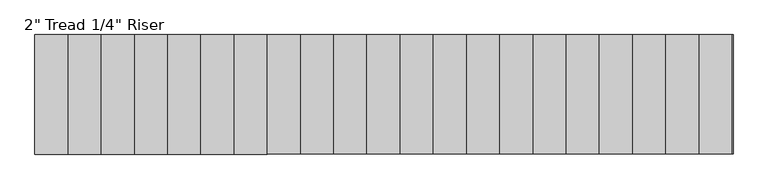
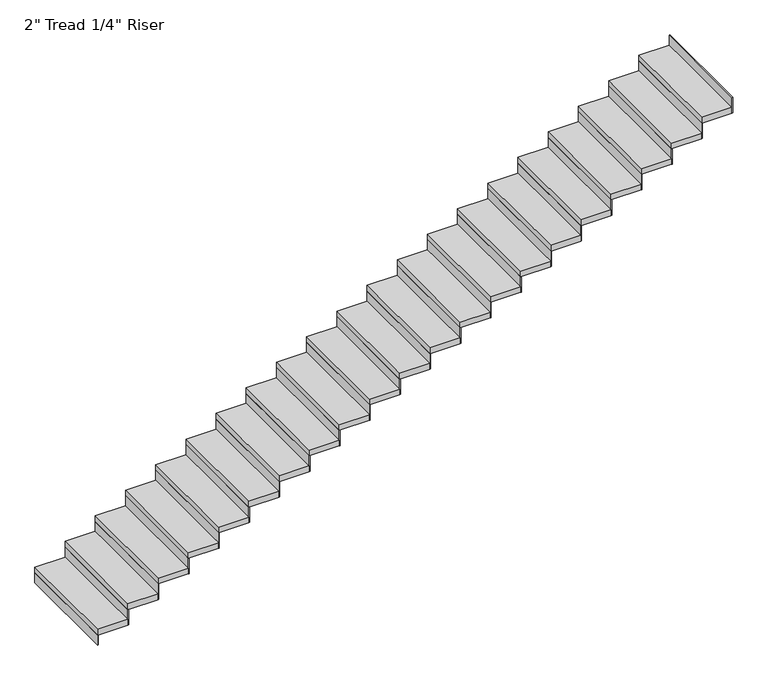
"""IFC4 building model written with IfcOpenShell, lengths in millimetres: stair flight geometry."""

from ifc_helpers import new_model, si_unit, frame, origin, origin_with_axes, place, context, project, spatial, polyline, outline, extrude, source, transform, mapped, element, save


def stair_flight_cca27561(model_context):
    return source(origin(), model_context, "Body", "SweptSolid", [
        extrude(outline(polyline([(37777.7791841, 50604.9186802), (37771.4291841, 50604.9186802), (37771.4291841, 51519.3186802), (37777.7791841, 51519.3186802), (37777.7791841, 50604.9186802)])), origin_with_axes(), (0.0, 0.0, 1.0), 87.7454545),
        extrude(outline(polyline([(38025.4291841, 51519.3186802), (38025.4291841, 50604.9186802), (37771.4291841, 50604.9186802), (37771.4291841, 51519.3186802), (38025.4291841, 51519.3186802)])), frame((0.0, 0.0, 87.7454545), z_axis=(0.0, 0.0, 1.0), x_axis=(1.0, 0.0, 0.0)), (0.0, 0.0, 1.0), 50.8),
        extrude(outline(polyline([(38031.7791841, 50604.9186802), (38025.4291841, 50604.9186802), (38025.4291841, 51519.3186802), (38031.7791841, 51519.3186802), (38031.7791841, 50604.9186802)])), frame((0.0, 0.0, 87.7454545), z_axis=(0.0, 0.0, 1.0), x_axis=(1.0, 0.0, 0.0)), (0.0, 0.0, 1.0), 138.5454545),
        extrude(outline(polyline([(38279.4291841, 51519.3186802), (38279.4291841, 50604.9186802), (38025.4291841, 50604.9186802), (38025.4291841, 51519.3186802), (38279.4291841, 51519.3186802)])), frame((0.0, 0.0, 226.2909091), z_axis=(0.0, 0.0, 1.0), x_axis=(1.0, 0.0, 0.0)), (0.0, 0.0, 1.0), 50.8),
        extrude(outline(polyline([(38285.7791841, 50604.9186802), (38279.4291841, 50604.9186802), (38279.4291841, 51519.3186802), (38285.7791841, 51519.3186802), (38285.7791841, 50604.9186802)])), frame((0.0, 0.0, 226.2909091), z_axis=(0.0, 0.0, 1.0), x_axis=(1.0, 0.0, 0.0)), (0.0, 0.0, 1.0), 138.5454545),
        extrude(outline(polyline([(38533.4291841, 51519.3186802), (38533.4291841, 50604.9186802), (38279.4291841, 50604.9186802), (38279.4291841, 51519.3186802), (38533.4291841, 51519.3186802)])), frame((0.0, 0.0, 364.8363636), z_axis=(0.0, 0.0, 1.0), x_axis=(1.0, 0.0, 0.0)), (0.0, 0.0, 1.0), 50.8),
        extrude(outline(polyline([(38539.7791841, 50604.9186802), (38533.4291841, 50604.9186802), (38533.4291841, 51519.3186802), (38539.7791841, 51519.3186802), (38539.7791841, 50604.9186802)])), frame((0.0, 0.0, 364.8363636), z_axis=(0.0, 0.0, 1.0), x_axis=(1.0, 0.0, 0.0)), (0.0, 0.0, 1.0), 138.5454545),
        extrude(outline(polyline([(38787.4291841, 51519.3186802), (38787.4291841, 50604.9186802), (38533.4291841, 50604.9186802), (38533.4291841, 51519.3186802), (38787.4291841, 51519.3186802)])), frame((0.0, 0.0, 503.3818182), z_axis=(0.0, 0.0, 1.0), x_axis=(1.0, 0.0, 0.0)), (0.0, 0.0, 1.0), 50.8),
        extrude(outline(polyline([(38793.7791841, 50604.9186802), (38787.4291841, 50604.9186802), (38787.4291841, 51519.3186802), (38793.7791841, 51519.3186802), (38793.7791841, 50604.9186802)])), frame((0.0, 0.0, 503.3818182), z_axis=(0.0, 0.0, 1.0), x_axis=(1.0, 0.0, 0.0)), (0.0, 0.0, 1.0), 138.5454545),
        extrude(outline(polyline([(39041.4291841, 51519.3186802), (39041.4291841, 50604.9186802), (38787.4291841, 50604.9186802), (38787.4291841, 51519.3186802), (39041.4291841, 51519.3186802)])), frame((0.0, 0.0, 641.9272727), z_axis=(0.0, 0.0, 1.0), x_axis=(1.0, 0.0, 0.0)), (0.0, 0.0, 1.0), 50.8),
        extrude(outline(polyline([(39047.7791841, 50604.9186802), (39041.4291841, 50604.9186802), (39041.4291841, 51519.3186802), (39047.7791841, 51519.3186802), (39047.7791841, 50604.9186802)])), frame((0.0, 0.0, 641.9272727), z_axis=(0.0, 0.0, 1.0), x_axis=(1.0, 0.0, 0.0)), (0.0, 0.0, 1.0), 138.5454545),
        extrude(outline(polyline([(39295.4291841, 51519.3186802), (39295.4291841, 50604.9186802), (39041.4291841, 50604.9186802), (39041.4291841, 51519.3186802), (39295.4291841, 51519.3186802)])), frame((0.0, 0.0, 780.4727273), z_axis=(0.0, 0.0, 1.0), x_axis=(1.0, 0.0, 0.0)), (0.0, 0.0, 1.0), 50.8),
        extrude(outline(polyline([(39301.7791841, 50604.9186802), (39295.4291841, 50604.9186802), (39295.4291841, 51519.3186802), (39301.7791841, 51519.3186802), (39301.7791841, 50604.9186802)])), frame((0.0, 0.0, 780.4727273), z_axis=(0.0, 0.0, 1.0), x_axis=(1.0, 0.0, 0.0)), (0.0, 0.0, 1.0), 138.5454545),
        extrude(outline(polyline([(39549.4291841, 51519.3186802), (39549.4291841, 50604.9186802), (39295.4291841, 50604.9186802), (39295.4291841, 51519.3186802), (39549.4291841, 51519.3186802)])), frame((0.0, 0.0, 919.0181818), z_axis=(0.0, 0.0, 1.0), x_axis=(1.0, 0.0, 0.0)), (0.0, 0.0, 1.0), 50.8),
        extrude(outline(polyline([(39555.7791841, 50604.9186802), (39549.4291841, 50604.9186802), (39549.4291841, 51519.3186802), (39555.7791841, 51519.3186802), (39555.7791841, 50604.9186802)])), frame((0.0, 0.0, 919.0181818), z_axis=(0.0, 0.0, 1.0), x_axis=(1.0, 0.0, 0.0)), (0.0, 0.0, 1.0), 138.5454545),
        extrude(outline(polyline([(39803.4291841, 51519.3186802), (39803.4291841, 50604.9186802), (39549.4291841, 50604.9186802), (39549.4291841, 51519.3186802), (39803.4291841, 51519.3186802)])), frame((0.0, 0.0, 1057.5636364), z_axis=(0.0, 0.0, 1.0), x_axis=(1.0, 0.0, 0.0)), (0.0, 0.0, 1.0), 50.8),
        extrude(outline(polyline([(39809.7791841, 50604.9186802), (39803.4291841, 50604.9186802), (39803.4291841, 51519.3186802), (39809.7791841, 51519.3186802), (39809.7791841, 50604.9186802)])), frame((0.0, 0.0, 1057.5636364), z_axis=(0.0, 0.0, 1.0), x_axis=(1.0, 0.0, 0.0)), (0.0, 0.0, 1.0), 138.5454545),
        extrude(outline(polyline([(40057.4291841, 51519.3186802), (40057.4291841, 50604.9186802), (39803.4291841, 50604.9186802), (39803.4291841, 51519.3186802), (40057.4291841, 51519.3186802)])), frame((0.0, 0.0, 1196.1090909), z_axis=(0.0, 0.0, 1.0), x_axis=(1.0, 0.0, 0.0)), (0.0, 0.0, 1.0), 50.8),
        extrude(outline(polyline([(40063.7791841, 50604.9186802), (40057.4291841, 50604.9186802), (40057.4291841, 51519.3186802), (40063.7791841, 51519.3186802), (40063.7791841, 50604.9186802)])), frame((0.0, 0.0, 1196.1090909), z_axis=(0.0, 0.0, 1.0), x_axis=(1.0, 0.0, 0.0)), (0.0, 0.0, 1.0), 138.5454545),
        extrude(outline(polyline([(40311.4291841, 51519.3186802), (40311.4291841, 50604.9186802), (40057.4291841, 50604.9186802), (40057.4291841, 51519.3186802), (40311.4291841, 51519.3186802)])), frame((0.0, 0.0, 1334.6545455), z_axis=(0.0, 0.0, 1.0), x_axis=(1.0, 0.0, 0.0)), (0.0, 0.0, 1.0), 50.8),
        extrude(outline(polyline([(40317.7791841, 50604.9186802), (40311.4291841, 50604.9186802), (40311.4291841, 51519.3186802), (40317.7791841, 51519.3186802), (40317.7791841, 50604.9186802)])), frame((0.0, 0.0, 1334.6545455), z_axis=(0.0, 0.0, 1.0), x_axis=(1.0, 0.0, 0.0)), (0.0, 0.0, 1.0), 138.5454545),
        extrude(outline(polyline([(40565.4291841, 51519.3186802), (40565.4291841, 50604.9186802), (40311.4291841, 50604.9186802), (40311.4291841, 51519.3186802), (40565.4291841, 51519.3186802)])), frame((0.0, 0.0, 1473.2), z_axis=(0.0, 0.0, 1.0), x_axis=(1.0, 0.0, 0.0)), (0.0, 0.0, 1.0), 50.8),
        extrude(outline(polyline([(40571.7791841, 50604.9186802), (40565.4291841, 50604.9186802), (40565.4291841, 51519.3186802), (40571.7791841, 51519.3186802), (40571.7791841, 50604.9186802)])), frame((0.0, 0.0, 1473.2), z_axis=(0.0, 0.0, 1.0), x_axis=(1.0, 0.0, 0.0)), (0.0, 0.0, 1.0), 138.5454545),
        extrude(outline(polyline([(40819.4291841, 51519.3186802), (40819.4291841, 50604.9186802), (40565.4291841, 50604.9186802), (40565.4291841, 51519.3186802), (40819.4291841, 51519.3186802)])), frame((0.0, 0.0, 1611.7454545), z_axis=(0.0, 0.0, 1.0), x_axis=(1.0, 0.0, 0.0)), (0.0, 0.0, 1.0), 50.8),
        extrude(outline(polyline([(40825.7791841, 50604.9186802), (40819.4291841, 50604.9186802), (40819.4291841, 51519.3186802), (40825.7791841, 51519.3186802), (40825.7791841, 50604.9186802)])), frame((0.0, 0.0, 1611.7454545), z_axis=(0.0, 0.0, 1.0), x_axis=(1.0, 0.0, 0.0)), (0.0, 0.0, 1.0), 138.5454545),
        extrude(outline(polyline([(41073.4291841, 51519.3186802), (41073.4291841, 50604.9186802), (40819.4291841, 50604.9186802), (40819.4291841, 51519.3186802), (41073.4291841, 51519.3186802)])), frame((0.0, 0.0, 1750.2909091), z_axis=(0.0, 0.0, 1.0), x_axis=(1.0, 0.0, 0.0)), (0.0, 0.0, 1.0), 50.8),
        extrude(outline(polyline([(41079.7791841, 50604.9186802), (41073.4291841, 50604.9186802), (41073.4291841, 51519.3186802), (41079.7791841, 51519.3186802), (41079.7791841, 50604.9186802)])), frame((0.0, 0.0, 1750.2909091), z_axis=(0.0, 0.0, 1.0), x_axis=(1.0, 0.0, 0.0)), (0.0, 0.0, 1.0), 138.5454545),
        extrude(outline(polyline([(41327.4291841, 51519.3186802), (41327.4291841, 50604.9186802), (41073.4291841, 50604.9186802), (41073.4291841, 51519.3186802), (41327.4291841, 51519.3186802)])), frame((0.0, 0.0, 1888.8363636), z_axis=(0.0, 0.0, 1.0), x_axis=(1.0, 0.0, 0.0)), (0.0, 0.0, 1.0), 50.8),
        extrude(outline(polyline([(41333.7791841, 50604.9186802), (41327.4291841, 50604.9186802), (41327.4291841, 51519.3186802), (41333.7791841, 51519.3186802), (41333.7791841, 50604.9186802)])), frame((0.0, 0.0, 1888.8363636), z_axis=(0.0, 0.0, 1.0), x_axis=(1.0, 0.0, 0.0)), (0.0, 0.0, 1.0), 138.5454545),
        extrude(outline(polyline([(41581.4291841, 51519.3186802), (41581.4291841, 50604.9186802), (41327.4291841, 50604.9186802), (41327.4291841, 51519.3186802), (41581.4291841, 51519.3186802)])), frame((0.0, 0.0, 2027.3818182), z_axis=(0.0, 0.0, 1.0), x_axis=(1.0, 0.0, 0.0)), (0.0, 0.0, 1.0), 50.8),
        extrude(outline(polyline([(41587.7791841, 50604.9186802), (41581.4291841, 50604.9186802), (41581.4291841, 51519.3186802), (41587.7791841, 51519.3186802), (41587.7791841, 50604.9186802)])), frame((0.0, 0.0, 2027.3818182), z_axis=(0.0, 0.0, 1.0), x_axis=(1.0, 0.0, 0.0)), (0.0, 0.0, 1.0), 138.5454545),
        extrude(outline(polyline([(41835.4291841, 51519.3186802), (41835.4291841, 50604.9186802), (41581.4291841, 50604.9186802), (41581.4291841, 51519.3186802), (41835.4291841, 51519.3186802)])), frame((0.0, 0.0, 2165.9272727), z_axis=(0.0, 0.0, 1.0), x_axis=(1.0, 0.0, 0.0)), (0.0, 0.0, 1.0), 50.8),
        extrude(outline(polyline([(41841.7791841, 50604.9186802), (41835.4291841, 50604.9186802), (41835.4291841, 51519.3186802), (41841.7791841, 51519.3186802), (41841.7791841, 50604.9186802)])), frame((0.0, 0.0, 2165.9272727), z_axis=(0.0, 0.0, 1.0), x_axis=(1.0, 0.0, 0.0)), (0.0, 0.0, 1.0), 138.5454545),
        extrude(outline(polyline([(42089.4291841, 51519.3186802), (42089.4291841, 50604.9186802), (41835.4291841, 50604.9186802), (41835.4291841, 51519.3186802), (42089.4291841, 51519.3186802)])), frame((0.0, 0.0, 2304.4727273), z_axis=(0.0, 0.0, 1.0), x_axis=(1.0, 0.0, 0.0)), (0.0, 0.0, 1.0), 50.8),
        extrude(outline(polyline([(42095.7791841, 50604.9186802), (42089.4291841, 50604.9186802), (42089.4291841, 51519.3186802), (42095.7791841, 51519.3186802), (42095.7791841, 50604.9186802)])), frame((0.0, 0.0, 2304.4727273), z_axis=(0.0, 0.0, 1.0), x_axis=(1.0, 0.0, 0.0)), (0.0, 0.0, 1.0), 138.5454545),
        extrude(outline(polyline([(42343.4291841, 51519.3186802), (42343.4291841, 50604.9186802), (42089.4291841, 50604.9186802), (42089.4291841, 51519.3186802), (42343.4291841, 51519.3186802)])), frame((0.0, 0.0, 2443.0181818), z_axis=(0.0, 0.0, 1.0), x_axis=(1.0, 0.0, 0.0)), (0.0, 0.0, 1.0), 50.8),
        extrude(outline(polyline([(42349.7791841, 50604.9186802), (42343.4291841, 50604.9186802), (42343.4291841, 51519.3186802), (42349.7791841, 51519.3186802), (42349.7791841, 50604.9186802)])), frame((0.0, 0.0, 2443.0181818), z_axis=(0.0, 0.0, 1.0), x_axis=(1.0, 0.0, 0.0)), (0.0, 0.0, 1.0), 138.5454545),
        extrude(outline(polyline([(42597.4291841, 51519.3186802), (42597.4291841, 50604.9186802), (42343.4291841, 50604.9186802), (42343.4291841, 51519.3186802), (42597.4291841, 51519.3186802)])), frame((0.0, 0.0, 2581.5636364), z_axis=(0.0, 0.0, 1.0), x_axis=(1.0, 0.0, 0.0)), (0.0, 0.0, 1.0), 50.8),
        extrude(outline(polyline([(42603.7791841, 50604.9186802), (42597.4291841, 50604.9186802), (42597.4291841, 51519.3186802), (42603.7791841, 51519.3186802), (42603.7791841, 50604.9186802)])), frame((0.0, 0.0, 2581.5636364), z_axis=(0.0, 0.0, 1.0), x_axis=(1.0, 0.0, 0.0)), (0.0, 0.0, 1.0), 138.5454545),
        extrude(outline(polyline([(42851.4291841, 51519.3186802), (42851.4291841, 50604.9186802), (42597.4291841, 50604.9186802), (42597.4291841, 51519.3186802), (42851.4291841, 51519.3186802)])), frame((0.0, 0.0, 2720.1090909), z_axis=(0.0, 0.0, 1.0), x_axis=(1.0, 0.0, 0.0)), (0.0, 0.0, 1.0), 50.8),
        extrude(outline(polyline([(42857.7791841, 50604.9186802), (42851.4291841, 50604.9186802), (42851.4291841, 51519.3186802), (42857.7791841, 51519.3186802), (42857.7791841, 50604.9186802)])), frame((0.0, 0.0, 2720.1090909), z_axis=(0.0, 0.0, 1.0), x_axis=(1.0, 0.0, 0.0)), (0.0, 0.0, 1.0), 138.5454545),
        extrude(outline(polyline([(43111.7791841, 50604.9186802), (43105.4291841, 50604.9186802), (43105.4291841, 51519.3186802), (43111.7791841, 51519.3186802), (43111.7791841, 50604.9186802)])), frame((0.0, 0.0, 2858.6545455), z_axis=(0.0, 0.0, 1.0), x_axis=(1.0, 0.0, 0.0)), (0.0, 0.0, 1.0), 138.5454545),
        extrude(outline(polyline([(43105.4291841, 51519.3186802), (43105.4291841, 50604.9186802), (42851.4291841, 50604.9186802), (42851.4291841, 51519.3186802), (43105.4291841, 51519.3186802)])), frame((0.0, 0.0, 2858.6545455), z_axis=(0.0, 0.0, 1.0), x_axis=(1.0, 0.0, 0.0)), (0.0, 0.0, 1.0), 50.8),
    ])


if __name__ == "__main__":
    model = new_model("IFC4")
    model_context = context("Model", 3, world=origin())
    ifc_project = project(units=[si_unit("LENGTHUNIT", "METRE", prefix="MILLI")], contexts=[model_context])
    site = spatial("IfcSite", under=ifc_project)
    building = spatial("IfcBuilding", under=site)
    placement = place(None, origin())
    stair_flight_shape = stair_flight_cca27561(model_context)
    element("IfcStairFlight", 1, ObjectType="2\" Tread 1/4\" Riser", at=placement, inside=building, context=model_context, shape_type="MappedRepresentation", body=[
        mapped(stair_flight_shape, transform((0.0, 0.0, 0.0), x_axis=(1.0, 0.0, 0.0), y_axis=(0.0, 1.0, 0.0), z_axis=(0.0, 0.0, 1.0))),
    ])
    save(model, "model.ifc")
